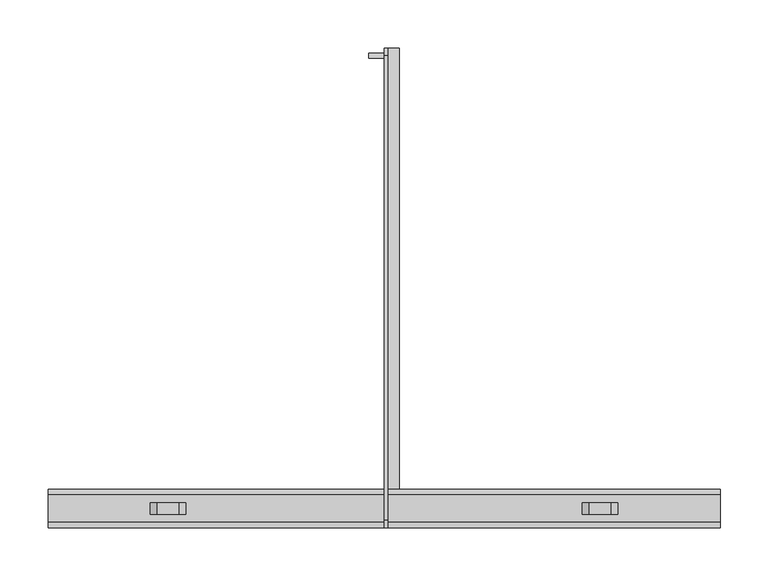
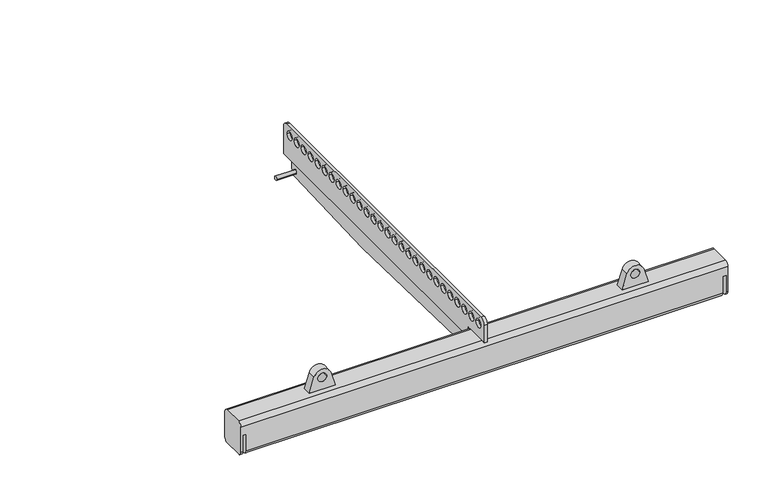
"""IFC4 building model written with IfcOpenShell, lengths in millimetres: proxy geometry, d&b A-Series Flying Frame : AL Flying Frame."""

from ifc_helpers import new_model, si_unit, point, frame, frame_2d, origin, place, context, project, spatial, polyline, circle_curve, trimmed, segment, composite_curve, outline, extrude, source, transform, mapped, element, save
from ifc_brep_helpers import plane_surface, cylinder_surface, revolved_surface, advanced_brep


def communication_devices_29ca18c5(model_context):
    return source(origin(), model_context, "Body", "SolidModel", [
        extrude(outline(composite_curve([segment(polyline([(55.7406227, -236.927185), (34.0, -243.7455136), (34.0, -206.2544864), (55.7406227, -213.072815)]), True, "CONTINUOUS"), segment(trimmed(circle_curve(frame_2d((52.0, -225.0)), 12.5), [point((55.7406227, -213.072815))], [point((55.7406227, -236.927185))], False, "CARTESIAN"), True, "CONTINUOUS")], self_intersect=False), holes=[composite_curve([segment(trimmed(circle_curve(frame_2d((52.1027107, -225.0)), 6.2920774), [point((52.1027107, -231.2920774))], [point((52.1027107, -218.7079226))], True, "CARTESIAN"), True, "CONTINUOUS"), segment(trimmed(circle_curve(frame_2d((52.1027107, -225.0)), 6.2920774), [point((52.1027107, -218.7079226))], [point((52.1027107, -231.2920774))], True, "CARTESIAN"), True, "CONTINUOUS")], self_intersect=False)]), frame((0.0, 0.0, 0.0), z_axis=(0.0, 1.0, 0.0), x_axis=(0.0, 0.0, 1.0)), (0.0, 0.0, 1.0), 12.0),
        extrude(outline(composite_curve([segment(trimmed(circle_curve(frame_2d((52.0, 225.0)), 12.5), [point((55.7406227, 236.927185))], [point((55.7406227, 213.072815))], False, "CARTESIAN"), True, "CONTINUOUS"), segment(polyline([(55.7406227, 213.072815), (34.0, 206.2544864), (34.0, 243.7455136), (55.7406227, 236.927185)]), True, "CONTINUOUS")], self_intersect=False), holes=[composite_curve([segment(trimmed(circle_curve(frame_2d((52.1027107, 225.0)), 6.2920774), [point((52.1027107, 231.2920774))], [point((52.1027107, 218.7079226))], True, "CARTESIAN"), True, "CONTINUOUS"), segment(trimmed(circle_curve(frame_2d((52.1027107, 225.0)), 6.2920774), [point((52.1027107, 218.7079226))], [point((52.1027107, 231.2920774))], True, "CARTESIAN"), True, "CONTINUOUS")], self_intersect=False)]), frame((0.0, 0.0, 0.0), z_axis=(0.0, 1.0, 0.0), x_axis=(0.0, 0.0, 1.0)), (0.0, 0.0, 1.0), 12.0),
        advanced_brep(
        [(350.0, -14.0, 27.9765975), (350.0, -14.0, -10.0), (350.0, -8.0, -16.0), (350.0, 20.0, -16.0), (350.0, 26.0, -10.0), (350.0, 26.0, 28.0), (350.0, 20.0, 34.0), (350.0, -7.9765975, 34.0), (-350.0, -14.0, 27.9765975), (-350.0, -7.9765975, 34.0), (-350.0, 20.0, 34.0), (-350.0, 26.0, 28.0), (-350.0, 26.0, -10.0), (-350.0, 20.0, -16.0), (-350.0, -8.0, -16.0), (-350.0, -14.0, -10.0), (-347.5, -14.0, -10.0), (-347.5, -14.0, 15.0), (-342.5, -14.0, 15.0), (-342.5, -14.0, -10.0), (342.5, -14.0, -10.0), (342.5, -14.0, 15.0), (347.5, -14.0, 15.0), (347.5, -14.0, -10.0), (347.5, -8.0, -16.0), (347.5, 12.25, -16.0), (342.5, 12.25, -16.0), (342.5, -8.0, -16.0), (-342.5, -8.0, -16.0), (-342.5, 12.25, -16.0), (-347.5, 12.25, -16.0), (-347.5, -8.0, -16.0), (-342.5, 12.25, 15.0), (-347.5, 12.25, 15.0), (347.5, 12.25, 15.0), (342.5, 12.25, 15.0)],
        [
            (0, 1),
            (1, 2, circle_curve(frame((350.0, -8.0, -10.0), z_axis=(1.0, 0.0, 0.0), x_axis=(0.0, -1.0, 0.0)), 6.0)),
            (2, 3),
            (3, 4, circle_curve(frame((350.0, 20.0, -10.0), z_axis=(1.0, 0.0, 0.0), x_axis=(0.0, -1.0, 0.0)), 6.0)),
            (4, 5),
            (5, 6, circle_curve(frame((350.0, 20.0, 28.0), z_axis=(1.0, 0.0, 0.0), x_axis=(0.0, -1.0, 0.0)), 6.0)),
            (6, 7),
            (7, 0, circle_curve(frame((350.0, -7.9765975, 27.9765975), z_axis=(1.0, 0.0, 0.0), x_axis=(0.0, -1.0, 0.0)), 6.0234025)),
            (8, 9, circle_curve(frame((-350.0, -7.9765975, 27.9765975), z_axis=(-1.0, 0.0, 0.0), x_axis=(0.0, -1.0, 0.0)), 6.0234025)),
            (9, 10),
            (10, 11, circle_curve(frame((-350.0, 20.0, 28.0), z_axis=(-1.0, 0.0, 0.0), x_axis=(0.0, -1.0, 0.0)), 6.0)),
            (11, 12),
            (12, 13, circle_curve(frame((-350.0, 20.0, -10.0), z_axis=(-1.0, 0.0, 0.0), x_axis=(0.0, -1.0, 0.0)), 6.0)),
            (13, 14),
            (14, 15, circle_curve(frame((-350.0, -8.0, -10.0), z_axis=(-1.0, 0.0, 0.0), x_axis=(0.0, -1.0, 0.0)), 6.0)),
            (15, 8),
            (0, 8),
            (15, 16),
            (16, 17),
            (17, 18),
            (18, 19),
            (19, 20),
            (20, 21),
            (21, 22),
            (22, 23),
            (23, 1),
            (2, 24),
            (24, 25),
            (25, 26),
            (26, 27),
            (27, 28),
            (28, 29),
            (29, 30),
            (30, 31),
            (31, 14),
            (13, 3),
            (4, 12),
            (11, 5),
            (6, 10),
            (9, 7),
            (23, 24, circle_curve(frame((347.5, -8.0, -10.0), z_axis=(1.0, 0.0, 0.0), x_axis=(0.0, -1.0, 0.0)), 6.0)),
            (31, 16, circle_curve(frame((-347.5, -8.0, -10.0), z_axis=(-1.0, 0.0, 0.0), x_axis=(0.0, -1.0, 0.0)), 6.0)),
            (27, 20, circle_curve(frame((342.5, -8.0, -10.0), z_axis=(-1.0, 0.0, 0.0), x_axis=(0.0, -1.0, 0.0)), 6.0)),
            (19, 28, circle_curve(frame((-342.5, -8.0, -10.0), z_axis=(1.0, 0.0, 0.0), x_axis=(0.0, -1.0, 0.0)), 6.0)),
            (32, 33),
            (33, 30),
            (29, 32),
            (34, 35),
            (35, 26),
            (25, 34),
            (33, 17),
            (18, 32),
            (34, 22),
            (21, 35),
        ],
        [
            plane_surface(frame((350.0, -14.0, -10.0), z_axis=(1.0, 0.0, 0.0), x_axis=(0.0, 0.0, -1.0))),
            plane_surface(frame((-350.0, -14.0, -10.0), z_axis=(-1.0, 0.0, 0.0), x_axis=(0.0, 0.0, 1.0))),
            plane_surface(frame((350.0, -14.0, 27.9765975), z_axis=(0.0, -1.0, 0.0), x_axis=(-1.0, 0.0, 0.0))),
            plane_surface(frame((350.0, -8.0, -16.0), z_axis=(0.0, 0.0, -1.0), x_axis=(-1.0, 0.0, 0.0))),
            plane_surface(frame((350.0, 26.0, -10.0), z_axis=(0.0, 1.0, 0.0), x_axis=(-1.0, 0.0, 0.0))),
            plane_surface(frame((350.0, 20.0, 34.0), z_axis=(0.0, 0.0, 1.0), x_axis=(-1.0, 0.0, 0.0))),
            cylinder_surface(frame((-350.0, -8.0, -10.0), z_axis=(1.0, 0.0, 0.0), x_axis=(0.0, -1.0, 0.0)), 6.0),
            cylinder_surface(frame((-350.0, 20.0, -10.0), z_axis=(1.0, 0.0, 0.0), x_axis=(0.0, -1.0, 0.0)), 6.0),
            cylinder_surface(frame((-350.0, 20.0, 28.0), z_axis=(1.0, 0.0, 0.0), x_axis=(0.0, -1.0, 0.0)), 6.0),
            cylinder_surface(frame((-350.0, -7.9765975, 27.9765975), z_axis=(1.0, 0.0, 0.0), x_axis=(0.0, -1.0, 0.0)), 6.0234025),
            plane_surface(frame((-347.5, 12.25, 15.0), z_axis=(0.0, -1.0, 0.0), x_axis=(0.0, 0.0, 1.0))),
            plane_surface(frame((-347.5, -15.0, 15.0), z_axis=(1.0, 0.0, 0.0), x_axis=(0.0, 1.0, 0.0))),
            plane_surface(frame((-342.5, -15.0, -25.0), z_axis=(-1.0, 0.0, 0.0), x_axis=(0.0, 1.0, 0.0))),
            plane_surface(frame((-342.5, -15.0, 15.0), z_axis=(0.0, 0.0, -1.0), x_axis=(0.0, 1.0, 0.0))),
            plane_surface(frame((347.5, -15.0, 15.0), z_axis=(0.0, 0.0, -1.0), x_axis=(0.0, 1.0, 0.0))),
            plane_surface(frame((342.5, -15.0, 15.0), z_axis=(1.0, 0.0, 0.0), x_axis=(0.0, 1.0, 0.0))),
            plane_surface(frame((347.5, -15.0, -25.0), z_axis=(-1.0, 0.0, 0.0), x_axis=(0.0, 1.0, 0.0))),
        ],
        [
            (0, [[1, 2, 3, 4, 5, 6, 7, 8]]),
            (1, [[9, 10, 11, 12, 13, 14, 15, 16]]),
            (2, [[-1, 17, -16, 18, 19, 20, 21, 22, 23, 24, 25, 26]]),
            (3, [[-3, 27, 28, 29, 30, 31, 32, 33, 34, 35, -14, 36]]),
            (4, [[-5, 37, -12, 38]]),
            (5, [[-7, 39, -10, 40]]),
            (6, [[-2, -26, 41, -27]]),
            (6, [[-15, -35, 42, -18]]),
            (6, [[-31, 43, -22, 44]]),
            (7, [[-4, -36, -13, -37]]),
            (8, [[-6, -38, -11, -39]]),
            (9, [[-8, -40, -9, -17]]),
            (10, [[45, 46, -33, 47]]),
            (10, [[48, 49, -29, 50]]),
            (11, [[-46, 51, -19, -42, -34]]),
            (12, [[-47, -32, -44, -21, 52]]),
            (13, [[-45, -52, -20, -51]]),
            (14, [[-48, 53, -24, 54]]),
            (15, [[-49, -54, -23, -43, -30]]),
            (16, [[-50, -28, -41, -25, -53]]),
        ],
    ),
        extrude(outline(composite_curve([segment(trimmed(circle_curve(frame_2d((478.0228599, -8.2510012)), 2.6987894), [point((480.7216493, -8.2510012))], [point((475.3240705, -8.2510012))], False, "CARTESIAN"), True, "CONTINUOUS"), segment(trimmed(circle_curve(frame_2d((478.0228599, -8.2510012)), 2.6987894), [point((475.3240705, -8.2510012))], [point((480.7216493, -8.2510012))], False, "CARTESIAN"), True, "CONTINUOUS")], self_intersect=False)), frame((-16.0, 0.0, 0.0), z_axis=(1.0, 0.0, 0.0), x_axis=(0.0, 1.0, 0.0)), (0.0, 0.0, 1.0), 32.0),
        advanced_brep(
        [(0.0, 26.0, 19.0), (12.0, 26.0, 16.0), (12.0, 26.0, -16.0), (16.0, 26.0, -16.0), (16.0, 26.0, 19.1231056), (4.0, 26.0, 22.1231056), (4.0, 26.0, 34.0), (0.0, 26.0, 34.0), (4.0, 486.0, 22.1231056), (16.0, 486.0, 19.1231056), (16.0, 486.0, -8.2905675), (12.0, 486.0, -8.2905675), (12.0, 486.0, 16.0), (0.0, 486.0, 19.0), (0.0, 486.0, 61.0), (4.0, 486.0, 61.0), (16.0, 310.35, -22.5), (16.0, 478.2958408, -16.2850956), (16.0, 481.2216493, -8.2510012), (16.0, 474.8240705, -8.2510012), (12.0, 478.2958408, -16.2850956), (12.0, 310.35, -22.5), (12.0, 481.2216493, -8.2510012), (12.0, 474.8240705, -8.2510012), (4.0, -14.0, 34.0), (4.0, -14.0, 61.0), (0.0, -14.0, 61.0), (0.0, -14.0, 34.0), (4.0, -6.0, 69.0), (4.0, 478.0, 69.0), (0.0, 478.0, 69.0), (0.0, -6.0, 69.0), (4.0, 447.25, 55.0), (4.0, 459.75, 55.0), (4.0, 429.85, 55.0), (4.0, 442.35, 55.0), (4.0, 412.45, 55.0), (4.0, 424.95, 55.0), (4.0, 395.05, 55.0), (4.0, 407.55, 55.0), (4.0, 377.65, 55.0), (4.0, 390.15, 55.0), (4.0, 360.25, 55.0), (4.0, 372.75, 55.0), (4.0, 342.85, 55.0), (4.0, 355.35, 55.0), (4.0, 325.45, 55.0), (4.0, 337.95, 55.0), (4.0, 198.75, 55.0), (4.0, 186.25, 55.0), (4.0, 216.15, 55.0), (4.0, 203.65, 55.0), (4.0, 233.55, 55.0), (4.0, 221.05, 55.0), (4.0, 250.95, 55.0), (4.0, 238.45, 55.0), (4.0, 268.35, 55.0), (4.0, 255.85, 55.0), (4.0, 285.75, 55.0), (4.0, 273.25, 55.0), (4.0, 303.15, 55.0), (4.0, 290.65, 55.0), (4.0, 320.55, 55.0), (4.0, 308.05, 55.0), (4.0, 59.55, 55.0), (4.0, 47.05, 55.0), (4.0, 168.85, 55.0), (4.0, 181.35, 55.0), (4.0, 151.45, 55.0), (4.0, 163.95, 55.0), (4.0, 134.05, 55.0), (4.0, 146.55, 55.0), (4.0, 116.65, 55.0), (4.0, 129.15, 55.0), (4.0, 99.25, 55.0), (4.0, 111.75, 55.0), (4.0, 81.85, 55.0), (4.0, 94.35, 55.0), (4.0, 64.45, 55.0), (4.0, 76.95, 55.0), (4.0, 7.35, 55.0), (4.0, -5.15, 55.0), (4.0, 24.75, 55.0), (4.0, 12.25, 55.0), (4.0, 42.15, 55.0), (4.0, 29.65, 55.0), (4.0, 464.65, 55.0), (4.0, 477.15, 55.0), (0.0, 447.25, 55.0), (0.0, 459.75, 55.0), (0.0, 429.85, 55.0), (0.0, 442.35, 55.0), (0.0, 412.45, 55.0), (0.0, 424.95, 55.0), (0.0, 395.05, 55.0), (0.0, 407.55, 55.0), (0.0, 377.65, 55.0), (0.0, 390.15, 55.0), (0.0, 360.25, 55.0), (0.0, 372.75, 55.0), (0.0, 342.85, 55.0), (0.0, 355.35, 55.0), (0.0, 325.45, 55.0), (0.0, 337.95, 55.0), (0.0, 198.75, 55.0), (0.0, 186.25, 55.0), (0.0, 216.15, 55.0), (0.0, 203.65, 55.0), (0.0, 233.55, 55.0), (0.0, 221.05, 55.0), (0.0, 250.95, 55.0), (0.0, 238.45, 55.0), (0.0, 268.35, 55.0), (0.0, 255.85, 55.0), (0.0, 285.75, 55.0), (0.0, 273.25, 55.0), (0.0, 303.15, 55.0), (0.0, 290.65, 55.0), (0.0, 320.55, 55.0), (0.0, 308.05, 55.0), (0.0, 59.55, 55.0), (0.0, 47.05, 55.0), (0.0, 168.85, 55.0), (0.0, 181.35, 55.0), (0.0, 151.45, 55.0), (0.0, 163.95, 55.0), (0.0, 134.05, 55.0), (0.0, 146.55, 55.0), (0.0, 116.65, 55.0), (0.0, 129.15, 55.0), (0.0, 99.25, 55.0), (0.0, 111.75, 55.0), (0.0, 81.85, 55.0), (0.0, 94.35, 55.0), (0.0, 64.45, 55.0), (0.0, 76.95, 55.0), (0.0, 7.35, 55.0), (0.0, -5.15, 55.0), (0.0, 24.75, 55.0), (0.0, 12.25, 55.0), (0.0, 42.15, 55.0), (0.0, 29.65, 55.0), (0.0, 464.65, 55.0), (0.0, 477.15, 55.0)],
        [
            (0, 1),
            (1, 2),
            (2, 3),
            (3, 4),
            (4, 5),
            (5, 6),
            (6, 7),
            (7, 0),
            (8, 9),
            (9, 10),
            (10, 11),
            (11, 12),
            (12, 13),
            (13, 14),
            (14, 15),
            (15, 8),
            (4, 9),
            (8, 5),
            (3, 16),
            (16, 17),
            (17, 10, circle_curve(frame((16.0, 478.0, -8.2905675), z_axis=(1.0, 0.0, 0.0), x_axis=(0.0, -1.0, 0.0)), 8.0)),
            (18, 19, circle_curve(frame((16.0, 478.0228599, -8.2510012), z_axis=(-1.0, 0.0, 0.0), x_axis=(0.0, -1.0, 0.0)), 3.1987894)),
            (19, 18, circle_curve(frame((16.0, 478.0228599, -8.2510012), z_axis=(-1.0, 0.0, 0.0), x_axis=(0.0, -1.0, 0.0)), 3.1987894)),
            (1, 12),
            (11, 20, circle_curve(frame((12.0, 478.0, -8.2905675), z_axis=(-1.0, 0.0, 0.0), x_axis=(0.0, -1.0, 0.0)), 8.0)),
            (20, 21),
            (21, 2),
            (22, 23, circle_curve(frame((12.0, 478.0228599, -8.2510012), z_axis=(1.0, 0.0, 0.0), x_axis=(0.0, -1.0, 0.0)), 3.1987894)),
            (23, 22, circle_curve(frame((12.0, 478.0228599, -8.2510012), z_axis=(1.0, 0.0, 0.0), x_axis=(0.0, -1.0, 0.0)), 3.1987894)),
            (0, 13),
            (24, 25),
            (25, 26),
            (26, 27),
            (27, 24),
            (6, 24),
            (27, 7),
            (28, 29),
            (29, 30),
            (30, 31),
            (31, 28),
            (25, 28, circle_curve(frame((4.0, -6.0, 61.0), z_axis=(-1.0, 0.0, 0.0), x_axis=(0.0, -1.0, 0.0)), 8.0)),
            (31, 26, circle_curve(frame((0.0, -6.0, 61.0), z_axis=(1.0, 0.0, 0.0), x_axis=(0.0, -1.0, 0.0)), 8.0)),
            (29, 15, circle_curve(frame((4.0, 478.0, 61.0), z_axis=(-1.0, 0.0, 0.0), x_axis=(0.0, -1.0, 0.0)), 8.0)),
            (14, 30, circle_curve(frame((0.0, 478.0, 61.0), z_axis=(1.0, 0.0, 0.0), x_axis=(0.0, -1.0, 0.0)), 8.0)),
            (21, 16),
            (20, 17),
            (22, 18),
            (19, 23),
            (32, 33, circle_curve(frame((4.0, 453.5, 55.0), z_axis=(-1.0, 0.0, 0.0), x_axis=(0.0, 1.0, 0.0)), 6.25)),
            (33, 32, circle_curve(frame((4.0, 453.5, 55.0), z_axis=(-1.0, 0.0, 0.0), x_axis=(0.0, 1.0, 0.0)), 6.25)),
            (34, 35, circle_curve(frame((4.0, 436.1, 55.0), z_axis=(-1.0, 0.0, 0.0), x_axis=(0.0, 1.0, 0.0)), 6.25)),
            (35, 34, circle_curve(frame((4.0, 436.1, 55.0), z_axis=(-1.0, 0.0, 0.0), x_axis=(0.0, 1.0, 0.0)), 6.25)),
            (36, 37, circle_curve(frame((4.0, 418.7, 55.0), z_axis=(-1.0, 0.0, 0.0), x_axis=(0.0, 1.0, 0.0)), 6.25)),
            (37, 36, circle_curve(frame((4.0, 418.7, 55.0), z_axis=(-1.0, 0.0, 0.0), x_axis=(0.0, 1.0, 0.0)), 6.25)),
            (38, 39, circle_curve(frame((4.0, 401.3, 55.0), z_axis=(-1.0, 0.0, 0.0), x_axis=(0.0, 1.0, 0.0)), 6.25)),
            (39, 38, circle_curve(frame((4.0, 401.3, 55.0), z_axis=(-1.0, 0.0, 0.0), x_axis=(0.0, 1.0, 0.0)), 6.25)),
            (40, 41, circle_curve(frame((4.0, 383.9, 55.0), z_axis=(-1.0, 0.0, 0.0), x_axis=(0.0, 1.0, 0.0)), 6.25)),
            (41, 40, circle_curve(frame((4.0, 383.9, 55.0), z_axis=(-1.0, 0.0, 0.0), x_axis=(0.0, 1.0, 0.0)), 6.25)),
            (42, 43, circle_curve(frame((4.0, 366.5, 55.0), z_axis=(-1.0, 0.0, 0.0), x_axis=(0.0, 1.0, 0.0)), 6.25)),
            (43, 42, circle_curve(frame((4.0, 366.5, 55.0), z_axis=(-1.0, 0.0, 0.0), x_axis=(0.0, 1.0, 0.0)), 6.25)),
            (44, 45, circle_curve(frame((4.0, 349.1, 55.0), z_axis=(-1.0, 0.0, 0.0), x_axis=(0.0, 1.0, 0.0)), 6.25)),
            (45, 44, circle_curve(frame((4.0, 349.1, 55.0), z_axis=(-1.0, 0.0, 0.0), x_axis=(0.0, 1.0, 0.0)), 6.25)),
            (46, 47, circle_curve(frame((4.0, 331.7, 55.0), z_axis=(-1.0, 0.0, 0.0), x_axis=(0.0, 1.0, 0.0)), 6.25)),
            (47, 46, circle_curve(frame((4.0, 331.7, 55.0), z_axis=(-1.0, 0.0, 0.0), x_axis=(0.0, 1.0, 0.0)), 6.25)),
            (48, 49, circle_curve(frame((4.0, 192.5, 55.0), z_axis=(-1.0, 0.0, 0.0), x_axis=(0.0, -1.0, 0.0)), 6.25)),
            (49, 48, circle_curve(frame((4.0, 192.5, 55.0), z_axis=(-1.0, 0.0, 0.0), x_axis=(0.0, -1.0, 0.0)), 6.25)),
            (50, 51, circle_curve(frame((4.0, 209.9, 55.0), z_axis=(-1.0, 0.0, 0.0), x_axis=(0.0, -1.0, 0.0)), 6.25)),
            (51, 50, circle_curve(frame((4.0, 209.9, 55.0), z_axis=(-1.0, 0.0, 0.0), x_axis=(0.0, -1.0, 0.0)), 6.25)),
            (52, 53, circle_curve(frame((4.0, 227.3, 55.0), z_axis=(-1.0, 0.0, 0.0), x_axis=(0.0, -1.0, 0.0)), 6.25)),
            (53, 52, circle_curve(frame((4.0, 227.3, 55.0), z_axis=(-1.0, 0.0, 0.0), x_axis=(0.0, -1.0, 0.0)), 6.25)),
            (54, 55, circle_curve(frame((4.0, 244.7, 55.0), z_axis=(-1.0, 0.0, 0.0), x_axis=(0.0, -1.0, 0.0)), 6.25)),
            (55, 54, circle_curve(frame((4.0, 244.7, 55.0), z_axis=(-1.0, 0.0, 0.0), x_axis=(0.0, -1.0, 0.0)), 6.25)),
            (56, 57, circle_curve(frame((4.0, 262.1, 55.0), z_axis=(-1.0, 0.0, 0.0), x_axis=(0.0, -1.0, 0.0)), 6.25)),
            (57, 56, circle_curve(frame((4.0, 262.1, 55.0), z_axis=(-1.0, 0.0, 0.0), x_axis=(0.0, -1.0, 0.0)), 6.25)),
            (58, 59, circle_curve(frame((4.0, 279.5, 55.0), z_axis=(-1.0, 0.0, 0.0), x_axis=(0.0, -1.0, 0.0)), 6.25)),
            (59, 58, circle_curve(frame((4.0, 279.5, 55.0), z_axis=(-1.0, 0.0, 0.0), x_axis=(0.0, -1.0, 0.0)), 6.25)),
            (60, 61, circle_curve(frame((4.0, 296.9, 55.0), z_axis=(-1.0, 0.0, 0.0), x_axis=(0.0, -1.0, 0.0)), 6.25)),
            (61, 60, circle_curve(frame((4.0, 296.9, 55.0), z_axis=(-1.0, 0.0, 0.0), x_axis=(0.0, -1.0, 0.0)), 6.25)),
            (62, 63, circle_curve(frame((4.0, 314.3, 55.0), z_axis=(-1.0, 0.0, 0.0), x_axis=(0.0, -1.0, 0.0)), 6.25)),
            (63, 62, circle_curve(frame((4.0, 314.3, 55.0), z_axis=(-1.0, 0.0, 0.0), x_axis=(0.0, -1.0, 0.0)), 6.25)),
            (64, 65, circle_curve(frame((4.0, 53.3, 55.0), z_axis=(-1.0, 0.0, 0.0), x_axis=(0.0, -1.0, 0.0)), 6.25)),
            (65, 64, circle_curve(frame((4.0, 53.3, 55.0), z_axis=(-1.0, 0.0, 0.0), x_axis=(0.0, -1.0, 0.0)), 6.25)),
            (66, 67, circle_curve(frame((4.0, 175.1, 55.0), z_axis=(-1.0, 0.0, 0.0), x_axis=(0.0, 1.0, 0.0)), 6.25)),
            (67, 66, circle_curve(frame((4.0, 175.1, 55.0), z_axis=(-1.0, 0.0, 0.0), x_axis=(0.0, 1.0, 0.0)), 6.25)),
            (68, 69, circle_curve(frame((4.0, 157.7, 55.0), z_axis=(-1.0, 0.0, 0.0), x_axis=(0.0, 1.0, 0.0)), 6.25)),
            (69, 68, circle_curve(frame((4.0, 157.7, 55.0), z_axis=(-1.0, 0.0, 0.0), x_axis=(0.0, 1.0, 0.0)), 6.25)),
            (70, 71, circle_curve(frame((4.0, 140.3, 55.0), z_axis=(-1.0, 0.0, 0.0), x_axis=(0.0, 1.0, 0.0)), 6.25)),
            (71, 70, circle_curve(frame((4.0, 140.3, 55.0), z_axis=(-1.0, 0.0, 0.0), x_axis=(0.0, 1.0, 0.0)), 6.25)),
            (72, 73, circle_curve(frame((4.0, 122.9, 55.0), z_axis=(-1.0, 0.0, 0.0), x_axis=(0.0, 1.0, 0.0)), 6.25)),
            (73, 72, circle_curve(frame((4.0, 122.9, 55.0), z_axis=(-1.0, 0.0, 0.0), x_axis=(0.0, 1.0, 0.0)), 6.25)),
            (74, 75, circle_curve(frame((4.0, 105.5, 55.0), z_axis=(-1.0, 0.0, 0.0), x_axis=(0.0, 1.0, 0.0)), 6.25)),
            (75, 74, circle_curve(frame((4.0, 105.5, 55.0), z_axis=(-1.0, 0.0, 0.0), x_axis=(0.0, 1.0, 0.0)), 6.25)),
            (76, 77, circle_curve(frame((4.0, 88.1, 55.0), z_axis=(-1.0, 0.0, 0.0), x_axis=(0.0, 1.0, 0.0)), 6.25)),
            (77, 76, circle_curve(frame((4.0, 88.1, 55.0), z_axis=(-1.0, 0.0, 0.0), x_axis=(0.0, 1.0, 0.0)), 6.25)),
            (78, 79, circle_curve(frame((4.0, 70.7, 55.0), z_axis=(-1.0, 0.0, 0.0), x_axis=(0.0, 1.0, 0.0)), 6.25)),
            (79, 78, circle_curve(frame((4.0, 70.7, 55.0), z_axis=(-1.0, 0.0, 0.0), x_axis=(0.0, 1.0, 0.0)), 6.25)),
            (80, 81, circle_curve(frame((4.0, 1.1, 55.0), z_axis=(-1.0, 0.0, 0.0), x_axis=(0.0, -1.0, 0.0)), 6.25)),
            (81, 80, circle_curve(frame((4.0, 1.1, 55.0), z_axis=(-1.0, 0.0, 0.0), x_axis=(0.0, -1.0, 0.0)), 6.25)),
            (82, 83, circle_curve(frame((4.0, 18.5, 55.0), z_axis=(-1.0, 0.0, 0.0), x_axis=(0.0, -1.0, 0.0)), 6.25)),
            (83, 82, circle_curve(frame((4.0, 18.5, 55.0), z_axis=(-1.0, 0.0, 0.0), x_axis=(0.0, -1.0, 0.0)), 6.25)),
            (84, 85, circle_curve(frame((4.0, 35.9, 55.0), z_axis=(-1.0, 0.0, 0.0), x_axis=(0.0, -1.0, 0.0)), 6.25)),
            (85, 84, circle_curve(frame((4.0, 35.9, 55.0), z_axis=(-1.0, 0.0, 0.0), x_axis=(0.0, -1.0, 0.0)), 6.25)),
            (86, 87, circle_curve(frame((4.0, 470.9, 55.0), z_axis=(-1.0, 0.0, 0.0), x_axis=(0.0, 1.0, 0.0)), 6.25)),
            (87, 86, circle_curve(frame((4.0, 470.9, 55.0), z_axis=(-1.0, 0.0, 0.0), x_axis=(0.0, 1.0, 0.0)), 6.25)),
            (88, 89, circle_curve(frame((0.0, 453.5, 55.0), z_axis=(1.0, 0.0, 0.0), x_axis=(0.0, 1.0, 0.0)), 6.25)),
            (89, 88, circle_curve(frame((0.0, 453.5, 55.0), z_axis=(1.0, 0.0, 0.0), x_axis=(0.0, 1.0, 0.0)), 6.25)),
            (90, 91, circle_curve(frame((0.0, 436.1, 55.0), z_axis=(1.0, 0.0, 0.0), x_axis=(0.0, 1.0, 0.0)), 6.25)),
            (91, 90, circle_curve(frame((0.0, 436.1, 55.0), z_axis=(1.0, 0.0, 0.0), x_axis=(0.0, 1.0, 0.0)), 6.25)),
            (92, 93, circle_curve(frame((0.0, 418.7, 55.0), z_axis=(1.0, 0.0, 0.0), x_axis=(0.0, 1.0, 0.0)), 6.25)),
            (93, 92, circle_curve(frame((0.0, 418.7, 55.0), z_axis=(1.0, 0.0, 0.0), x_axis=(0.0, 1.0, 0.0)), 6.25)),
            (94, 95, circle_curve(frame((0.0, 401.3, 55.0), z_axis=(1.0, 0.0, 0.0), x_axis=(0.0, 1.0, 0.0)), 6.25)),
            (95, 94, circle_curve(frame((0.0, 401.3, 55.0), z_axis=(1.0, 0.0, 0.0), x_axis=(0.0, 1.0, 0.0)), 6.25)),
            (96, 97, circle_curve(frame((0.0, 383.9, 55.0), z_axis=(1.0, 0.0, 0.0), x_axis=(0.0, 1.0, 0.0)), 6.25)),
            (97, 96, circle_curve(frame((0.0, 383.9, 55.0), z_axis=(1.0, 0.0, 0.0), x_axis=(0.0, 1.0, 0.0)), 6.25)),
            (98, 99, circle_curve(frame((0.0, 366.5, 55.0), z_axis=(1.0, 0.0, 0.0), x_axis=(0.0, 1.0, 0.0)), 6.25)),
            (99, 98, circle_curve(frame((0.0, 366.5, 55.0), z_axis=(1.0, 0.0, 0.0), x_axis=(0.0, 1.0, 0.0)), 6.25)),
            (100, 101, circle_curve(frame((0.0, 349.1, 55.0), z_axis=(1.0, 0.0, 0.0), x_axis=(0.0, 1.0, 0.0)), 6.25)),
            (101, 100, circle_curve(frame((0.0, 349.1, 55.0), z_axis=(1.0, 0.0, 0.0), x_axis=(0.0, 1.0, 0.0)), 6.25)),
            (102, 103, circle_curve(frame((0.0, 331.7, 55.0), z_axis=(1.0, 0.0, 0.0), x_axis=(0.0, 1.0, 0.0)), 6.25)),
            (103, 102, circle_curve(frame((0.0, 331.7, 55.0), z_axis=(1.0, 0.0, 0.0), x_axis=(0.0, 1.0, 0.0)), 6.25)),
            (104, 105, circle_curve(frame((0.0, 192.5, 55.0), z_axis=(1.0, 0.0, 0.0), x_axis=(0.0, -1.0, 0.0)), 6.25)),
            (105, 104, circle_curve(frame((0.0, 192.5, 55.0), z_axis=(1.0, 0.0, 0.0), x_axis=(0.0, -1.0, 0.0)), 6.25)),
            (106, 107, circle_curve(frame((0.0, 209.9, 55.0), z_axis=(1.0, 0.0, 0.0), x_axis=(0.0, -1.0, 0.0)), 6.25)),
            (107, 106, circle_curve(frame((0.0, 209.9, 55.0), z_axis=(1.0, 0.0, 0.0), x_axis=(0.0, -1.0, 0.0)), 6.25)),
            (108, 109, circle_curve(frame((0.0, 227.3, 55.0), z_axis=(1.0, 0.0, 0.0), x_axis=(0.0, -1.0, 0.0)), 6.25)),
            (109, 108, circle_curve(frame((0.0, 227.3, 55.0), z_axis=(1.0, 0.0, 0.0), x_axis=(0.0, -1.0, 0.0)), 6.25)),
            (110, 111, circle_curve(frame((0.0, 244.7, 55.0), z_axis=(1.0, 0.0, 0.0), x_axis=(0.0, -1.0, 0.0)), 6.25)),
            (111, 110, circle_curve(frame((0.0, 244.7, 55.0), z_axis=(1.0, 0.0, 0.0), x_axis=(0.0, -1.0, 0.0)), 6.25)),
            (112, 113, circle_curve(frame((0.0, 262.1, 55.0), z_axis=(1.0, 0.0, 0.0), x_axis=(0.0, -1.0, 0.0)), 6.25)),
            (113, 112, circle_curve(frame((0.0, 262.1, 55.0), z_axis=(1.0, 0.0, 0.0), x_axis=(0.0, -1.0, 0.0)), 6.25)),
            (114, 115, circle_curve(frame((0.0, 279.5, 55.0), z_axis=(1.0, 0.0, 0.0), x_axis=(0.0, -1.0, 0.0)), 6.25)),
            (115, 114, circle_curve(frame((0.0, 279.5, 55.0), z_axis=(1.0, 0.0, 0.0), x_axis=(0.0, -1.0, 0.0)), 6.25)),
            (116, 117, circle_curve(frame((0.0, 296.9, 55.0), z_axis=(1.0, 0.0, 0.0), x_axis=(0.0, -1.0, 0.0)), 6.25)),
            (117, 116, circle_curve(frame((0.0, 296.9, 55.0), z_axis=(1.0, 0.0, 0.0), x_axis=(0.0, -1.0, 0.0)), 6.25)),
            (118, 119, circle_curve(frame((0.0, 314.3, 55.0), z_axis=(1.0, 0.0, 0.0), x_axis=(0.0, -1.0, 0.0)), 6.25)),
            (119, 118, circle_curve(frame((0.0, 314.3, 55.0), z_axis=(1.0, 0.0, 0.0), x_axis=(0.0, -1.0, 0.0)), 6.25)),
            (120, 121, circle_curve(frame((0.0, 53.3, 55.0), z_axis=(1.0, 0.0, 0.0), x_axis=(0.0, -1.0, 0.0)), 6.25)),
            (121, 120, circle_curve(frame((0.0, 53.3, 55.0), z_axis=(1.0, 0.0, 0.0), x_axis=(0.0, -1.0, 0.0)), 6.25)),
            (122, 123, circle_curve(frame((0.0, 175.1, 55.0), z_axis=(1.0, 0.0, 0.0), x_axis=(0.0, 1.0, 0.0)), 6.25)),
            (123, 122, circle_curve(frame((0.0, 175.1, 55.0), z_axis=(1.0, 0.0, 0.0), x_axis=(0.0, 1.0, 0.0)), 6.25)),
            (124, 125, circle_curve(frame((0.0, 157.7, 55.0), z_axis=(1.0, 0.0, 0.0), x_axis=(0.0, 1.0, 0.0)), 6.25)),
            (125, 124, circle_curve(frame((0.0, 157.7, 55.0), z_axis=(1.0, 0.0, 0.0), x_axis=(0.0, 1.0, 0.0)), 6.25)),
            (126, 127, circle_curve(frame((0.0, 140.3, 55.0), z_axis=(1.0, 0.0, 0.0), x_axis=(0.0, 1.0, 0.0)), 6.25)),
            (127, 126, circle_curve(frame((0.0, 140.3, 55.0), z_axis=(1.0, 0.0, 0.0), x_axis=(0.0, 1.0, 0.0)), 6.25)),
            (128, 129, circle_curve(frame((0.0, 122.9, 55.0), z_axis=(1.0, 0.0, 0.0), x_axis=(0.0, 1.0, 0.0)), 6.25)),
            (129, 128, circle_curve(frame((0.0, 122.9, 55.0), z_axis=(1.0, 0.0, 0.0), x_axis=(0.0, 1.0, 0.0)), 6.25)),
            (130, 131, circle_curve(frame((0.0, 105.5, 55.0), z_axis=(1.0, 0.0, 0.0), x_axis=(0.0, 1.0, 0.0)), 6.25)),
            (131, 130, circle_curve(frame((0.0, 105.5, 55.0), z_axis=(1.0, 0.0, 0.0), x_axis=(0.0, 1.0, 0.0)), 6.25)),
            (132, 133, circle_curve(frame((0.0, 88.1, 55.0), z_axis=(1.0, 0.0, 0.0), x_axis=(0.0, 1.0, 0.0)), 6.25)),
            (133, 132, circle_curve(frame((0.0, 88.1, 55.0), z_axis=(1.0, 0.0, 0.0), x_axis=(0.0, 1.0, 0.0)), 6.25)),
            (134, 135, circle_curve(frame((0.0, 70.7, 55.0), z_axis=(1.0, 0.0, 0.0), x_axis=(0.0, 1.0, 0.0)), 6.25)),
            (135, 134, circle_curve(frame((0.0, 70.7, 55.0), z_axis=(1.0, 0.0, 0.0), x_axis=(0.0, 1.0, 0.0)), 6.25)),
            (136, 137, circle_curve(frame((0.0, 1.1, 55.0), z_axis=(1.0, 0.0, 0.0), x_axis=(0.0, -1.0, 0.0)), 6.25)),
            (137, 136, circle_curve(frame((0.0, 1.1, 55.0), z_axis=(1.0, 0.0, 0.0), x_axis=(0.0, -1.0, 0.0)), 6.25)),
            (138, 139, circle_curve(frame((0.0, 18.5, 55.0), z_axis=(1.0, 0.0, 0.0), x_axis=(0.0, -1.0, 0.0)), 6.25)),
            (139, 138, circle_curve(frame((0.0, 18.5, 55.0), z_axis=(1.0, 0.0, 0.0), x_axis=(0.0, -1.0, 0.0)), 6.25)),
            (140, 141, circle_curve(frame((0.0, 35.9, 55.0), z_axis=(1.0, 0.0, 0.0), x_axis=(0.0, -1.0, 0.0)), 6.25)),
            (141, 140, circle_curve(frame((0.0, 35.9, 55.0), z_axis=(1.0, 0.0, 0.0), x_axis=(0.0, -1.0, 0.0)), 6.25)),
            (142, 143, circle_curve(frame((0.0, 470.9, 55.0), z_axis=(1.0, 0.0, 0.0), x_axis=(0.0, 1.0, 0.0)), 6.25)),
            (143, 142, circle_curve(frame((0.0, 470.9, 55.0), z_axis=(1.0, 0.0, 0.0), x_axis=(0.0, 1.0, 0.0)), 6.25)),
            (32, 88),
            (89, 33),
            (34, 90),
            (91, 35),
            (36, 92),
            (93, 37),
            (38, 94),
            (95, 39),
            (40, 96),
            (97, 41),
            (42, 98),
            (99, 43),
            (44, 100),
            (101, 45),
            (46, 102),
            (103, 47),
            (48, 104),
            (105, 49),
            (50, 106),
            (107, 51),
            (52, 108),
            (109, 53),
            (54, 110),
            (111, 55),
            (56, 112),
            (113, 57),
            (58, 114),
            (115, 59),
            (60, 116),
            (117, 61),
            (62, 118),
            (119, 63),
            (64, 120),
            (121, 65),
            (66, 122),
            (123, 67),
            (68, 124),
            (125, 69),
            (70, 126),
            (127, 71),
            (72, 128),
            (129, 73),
            (74, 130),
            (131, 75),
            (76, 132),
            (133, 77),
            (78, 134),
            (135, 79),
            (80, 136),
            (137, 81),
            (82, 138),
            (139, 83),
            (84, 140),
            (141, 85),
            (86, 142),
            (143, 87),
        ],
        [
            plane_surface(frame((10.4850713, 26.0, 16.3787322), z_axis=(0.0, -1.0, 0.0), x_axis=(0.9701425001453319, 0.0, -0.24253562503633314))),
            plane_surface(frame((10.4850713, 486.0, 16.3787322), z_axis=(0.0, 1.0, 0.0), x_axis=(-0.9701425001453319, 0.0, 0.24253562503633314))),
            plane_surface(frame((16.0, 26.0, 19.1231056), z_axis=(0.24253562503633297, 0.0, 0.9701425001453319), x_axis=(0.0, 1.0, 0.0))),
            plane_surface(frame((16.0, 26.0, 12.25), z_axis=(1.0, 0.0, 0.0), x_axis=(0.0, 1.0, 0.0))),
            plane_surface(frame((12.0, 26.0, 16.0), z_axis=(-1.0, 0.0, 0.0), x_axis=(0.0, 1.0, 0.0))),
            plane_surface(frame((0.0, 26.0, 19.0), z_axis=(-0.24253562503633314, 0.0, -0.9701425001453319), x_axis=(0.0, 1.0, 0.0))),
            plane_surface(frame((4.0, -14.0, 61.0), z_axis=(0.0, -1.0, 0.0), x_axis=(-1.0, 0.0, 0.0))),
            plane_surface(frame((4.0, -14.0, 34.0), z_axis=(0.0, 0.0, -1.0), x_axis=(-1.0, 0.0, 0.0))),
            plane_surface(frame((4.0, 478.0, 69.0), z_axis=(0.0, 0.0, 1.0), x_axis=(-1.0, 0.0, 0.0))),
            cylinder_surface(frame((0.0, -6.0, 61.0), z_axis=(1.0, 0.0, 0.0), x_axis=(0.0, -1.0, 0.0)), 8.0),
            cylinder_surface(frame((0.0, 478.0, 61.0), z_axis=(1.0, 0.0, 0.0), x_axis=(0.0, -1.0, 0.0)), 8.0),
            plane_surface(frame((12.0, 310.35, -22.5), z_axis=(0.0, -0.022853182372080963, -0.9997388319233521), x_axis=(1.0, 0.0, 0.0))),
            plane_surface(frame((12.0, 478.2958408, -16.2850956), z_axis=(0.0, 0.036980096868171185, -0.9993160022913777), x_axis=(1.0, 0.0, 0.0))),
            cylinder_surface(frame((16.0, 478.0, -8.2905675), z_axis=(-1.0, 0.0, 0.0), x_axis=(0.0, -1.0, 0.0)), 8.0),
            revolved_surface(polyline([(16.0, 474.8240705, -8.2510012), (12.0, 474.8240705, -8.2510012)]), (0.0, 478.0228599, -8.2510012), (1.0, 0.0, 0.0)),
            plane_surface(frame((4.0, 26.0, 22.1231056), z_axis=(1.0, 0.0, 0.0), x_axis=(0.0, 1.0, 0.0))),
            plane_surface(frame((0.0, 26.0, 23.6846584), z_axis=(-1.0, 0.0, 0.0), x_axis=(0.0, 1.0, 0.0))),
            revolved_surface(polyline([(0.0, 459.75, 55.0), (4.0, 459.75, 55.0)]), (0.0, 453.5, 55.0), (-1.0, 0.0, 0.0)),
            revolved_surface(polyline([(0.0, 442.35, 55.0), (4.0, 442.35, 55.0)]), (0.0, 436.1, 55.0), (-1.0, 0.0, 0.0)),
            revolved_surface(polyline([(0.0, 424.95, 55.0), (4.0, 424.95, 55.0)]), (0.0, 418.7, 55.0), (-1.0, 0.0, 0.0)),
            revolved_surface(polyline([(0.0, 407.55, 55.0), (4.0, 407.55, 55.0)]), (0.0, 401.3, 55.0), (-1.0, 0.0, 0.0)),
            revolved_surface(polyline([(0.0, 390.15, 55.0), (4.0, 390.15, 55.0)]), (0.0, 383.9, 55.0), (-1.0, 0.0, 0.0)),
            revolved_surface(polyline([(0.0, 372.75, 55.0), (4.0, 372.75, 55.0)]), (0.0, 366.5, 55.0), (-1.0, 0.0, 0.0)),
            revolved_surface(polyline([(0.0, 355.35, 55.0), (4.0, 355.35, 55.0)]), (0.0, 349.1, 55.0), (-1.0, 0.0, 0.0)),
            revolved_surface(polyline([(0.0, 337.95, 55.0), (4.0, 337.95, 55.0)]), (0.0, 331.7, 55.0), (-1.0, 0.0, 0.0)),
            revolved_surface(polyline([(0.0, 186.25, 55.0), (4.0, 186.25, 55.0)]), (0.0, 192.5, 55.0), (-1.0, 0.0, 0.0)),
            revolved_surface(polyline([(0.0, 203.65, 55.0), (4.0, 203.65, 55.0)]), (0.0, 209.9, 55.0), (-1.0, 0.0, 0.0)),
            revolved_surface(polyline([(0.0, 221.05, 55.0), (4.0, 221.05, 55.0)]), (0.0, 227.3, 55.0), (-1.0, 0.0, 0.0)),
            revolved_surface(polyline([(0.0, 238.45, 55.0), (4.0, 238.45, 55.0)]), (0.0, 244.7, 55.0), (-1.0, 0.0, 0.0)),
            revolved_surface(polyline([(0.0, 255.85000000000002, 55.0), (4.0, 255.85000000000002, 55.0)]), (0.0, 262.1, 55.0), (-1.0, 0.0, 0.0)),
            revolved_surface(polyline([(0.0, 273.25, 55.0), (4.0, 273.25, 55.0)]), (0.0, 279.5, 55.0), (-1.0, 0.0, 0.0)),
            revolved_surface(polyline([(0.0, 290.65, 55.0), (4.0, 290.65, 55.0)]), (0.0, 296.9, 55.0), (-1.0, 0.0, 0.0)),
            revolved_surface(polyline([(0.0, 308.05, 55.0), (4.0, 308.05, 55.0)]), (0.0, 314.3, 55.0), (-1.0, 0.0, 0.0)),
            revolved_surface(polyline([(0.0, 47.05, 55.0), (4.0, 47.05, 55.0)]), (0.0, 53.3, 55.0), (-1.0, 0.0, 0.0)),
            revolved_surface(polyline([(0.0, 181.35, 55.0), (4.0, 181.35, 55.0)]), (0.0, 175.1, 55.0), (-1.0, 0.0, 0.0)),
            revolved_surface(polyline([(0.0, 163.95, 55.0), (4.0, 163.95, 55.0)]), (0.0, 157.7, 55.0), (-1.0, 0.0, 0.0)),
            revolved_surface(polyline([(0.0, 146.55, 55.0), (4.0, 146.55, 55.0)]), (0.0, 140.3, 55.0), (-1.0, 0.0, 0.0)),
            revolved_surface(polyline([(0.0, 129.15, 55.0), (4.0, 129.15, 55.0)]), (0.0, 122.9, 55.0), (-1.0, 0.0, 0.0)),
            revolved_surface(polyline([(0.0, 111.75, 55.0), (4.0, 111.75, 55.0)]), (0.0, 105.5, 55.0), (-1.0, 0.0, 0.0)),
            revolved_surface(polyline([(0.0, 94.35, 55.0), (4.0, 94.35, 55.0)]), (0.0, 88.1, 55.0), (-1.0, 0.0, 0.0)),
            revolved_surface(polyline([(0.0, 76.95, 55.0), (4.0, 76.95, 55.0)]), (0.0, 70.7, 55.0), (-1.0, 0.0, 0.0)),
            revolved_surface(polyline([(0.0, -5.15, 55.0), (4.0, -5.15, 55.0)]), (0.0, 1.1, 55.0), (-1.0, 0.0, 0.0)),
            revolved_surface(polyline([(0.0, 12.25, 55.0), (4.0, 12.25, 55.0)]), (0.0, 18.5, 55.0), (-1.0, 0.0, 0.0)),
            revolved_surface(polyline([(0.0, 29.65, 55.0), (4.0, 29.65, 55.0)]), (0.0, 35.9, 55.0), (-1.0, 0.0, 0.0)),
            revolved_surface(polyline([(0.0, 477.15, 55.0), (4.0, 477.15, 55.0)]), (0.0, 470.9, 55.0), (-1.0, 0.0, 0.0)),
        ],
        [
            (0, [[1, 2, 3, 4, 5, 6, 7, 8]]),
            (1, [[9, 10, 11, 12, 13, 14, 15, 16]]),
            (2, [[-5, 17, -9, 18]]),
            (3, [[-4, 19, 20, 21, -10, -17], [22, 23]]),
            (4, [[-2, 24, -12, 25, 26, 27], [28, 29]]),
            (5, [[-1, 30, -13, -24]]),
            (6, [[31, 32, 33, 34]]),
            (7, [[35, -34, 36, -7]]),
            (8, [[37, 38, 39, 40]]),
            (9, [[41, -40, 42, -32]]),
            (10, [[43, -15, 44, -38]]),
            (11, [[-27, 45, -19, -3]]),
            (12, [[-26, 46, -20, -45]]),
            (13, [[-25, -11, -21, -46]]),
            (14, [[-28, 47, -23, 48]]),
            (14, [[-29, -48, -22, -47]]),
            (15, [[-18, -16, -43, -37, -41, -31, -35, -6], [49, 50], [51, 52], [53, 54], [55, 56], [57, 58], [59, 60], [61, 62], [63, 64], [65, 66], [67, 68], [69, 70], [71, 72], [73, 74], [75, 76], [77, 78], [79, 80], [81, 82], [83, 84], [85, 86], [87, 88], [89, 90], [91, 92], [93, 94], [95, 96], [97, 98], [99, 100], [101, 102], [103, 104]]),
            (16, [[-30, -8, -36, -33, -42, -39, -44, -14], [105, 106], [107, 108], [109, 110], [111, 112], [113, 114], [115, 116], [117, 118], [119, 120], [121, 122], [123, 124], [125, 126], [127, 128], [129, 130], [131, 132], [133, 134], [135, 136], [137, 138], [139, 140], [141, 142], [143, 144], [145, 146], [147, 148], [149, 150], [151, 152], [153, 154], [155, 156], [157, 158], [159, 160]]),
            (17, [[-49, 161, -106, 162]]),
            (17, [[-50, -162, -105, -161]]),
            (18, [[-51, 163, -108, 164]]),
            (18, [[-52, -164, -107, -163]]),
            (19, [[-53, 165, -110, 166]]),
            (19, [[-54, -166, -109, -165]]),
            (20, [[-55, 167, -112, 168]]),
            (20, [[-56, -168, -111, -167]]),
            (21, [[-57, 169, -114, 170]]),
            (21, [[-58, -170, -113, -169]]),
            (22, [[-59, 171, -116, 172]]),
            (22, [[-60, -172, -115, -171]]),
            (23, [[-61, 173, -118, 174]]),
            (23, [[-62, -174, -117, -173]]),
            (24, [[-63, 175, -120, 176]]),
            (24, [[-64, -176, -119, -175]]),
            (25, [[-65, 177, -122, 178]]),
            (25, [[-66, -178, -121, -177]]),
            (26, [[-67, 179, -124, 180]]),
            (26, [[-68, -180, -123, -179]]),
            (27, [[-69, 181, -126, 182]]),
            (27, [[-70, -182, -125, -181]]),
            (28, [[-71, 183, -128, 184]]),
            (28, [[-72, -184, -127, -183]]),
            (29, [[-73, 185, -130, 186]]),
            (29, [[-74, -186, -129, -185]]),
            (30, [[-75, 187, -132, 188]]),
            (30, [[-76, -188, -131, -187]]),
            (31, [[-77, 189, -134, 190]]),
            (31, [[-78, -190, -133, -189]]),
            (32, [[-79, 191, -136, 192]]),
            (32, [[-80, -192, -135, -191]]),
            (33, [[-81, 193, -138, 194]]),
            (33, [[-82, -194, -137, -193]]),
            (34, [[-83, 195, -140, 196]]),
            (34, [[-84, -196, -139, -195]]),
            (35, [[-85, 197, -142, 198]]),
            (35, [[-86, -198, -141, -197]]),
            (36, [[-87, 199, -144, 200]]),
            (36, [[-88, -200, -143, -199]]),
            (37, [[-89, 201, -146, 202]]),
            (37, [[-90, -202, -145, -201]]),
            (38, [[-91, 203, -148, 204]]),
            (38, [[-92, -204, -147, -203]]),
            (39, [[-93, 205, -150, 206]]),
            (39, [[-94, -206, -149, -205]]),
            (40, [[-95, 207, -152, 208]]),
            (40, [[-96, -208, -151, -207]]),
            (41, [[-97, 209, -154, 210]]),
            (41, [[-98, -210, -153, -209]]),
            (42, [[-99, 211, -156, 212]]),
            (42, [[-100, -212, -155, -211]]),
            (43, [[-101, 213, -158, 214]]),
            (43, [[-102, -214, -157, -213]]),
            (44, [[-103, 215, -160, 216]]),
            (44, [[-104, -216, -159, -215]]),
        ],
    ),
    ])


if __name__ == "__main__":
    model = new_model("IFC4")
    model_context = context("Model", 3, world=origin())
    ifc_project = project(units=[si_unit("LENGTHUNIT", "METRE", prefix="MILLI")], contexts=[model_context])
    site = spatial("IfcSite", under=ifc_project)
    building = spatial("IfcBuilding", under=site)
    placement = place(None, origin())
    communication_devices_shape = communication_devices_29ca18c5(model_context)
    element("IfcBuildingElementProxy", 1, Name="d&b A-Series Flying Frame : AL Flying Frame", ObjectType="d&b A-Series Flying Frame : AL Flying Frame", at=placement, inside=building, context=model_context, shape_type="MappedRepresentation", body=[
        mapped(communication_devices_shape, transform((0.0, 0.0, 0.0), x_axis=(1.0, 0.0, 0.0), y_axis=(0.0, 1.0, 0.0), z_axis=(0.0, 0.0, 1.0))),
    ])
    save(model, "model.ifc")
